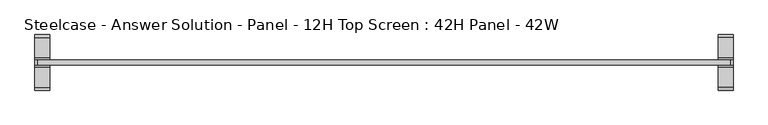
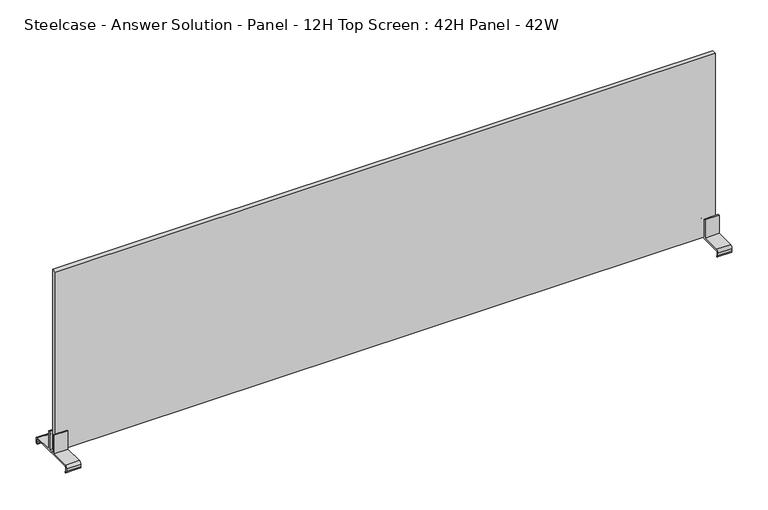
"""IFC4 building model written with IfcOpenShell, lengths in millimetres: furniture geometry, Steelcase - Answer Solution - Panel - 12H Top Screen : 42H Panel - 42W."""

from ifc_helpers import new_model, si_unit, point, frame, frame_2d, origin, place, context, project, spatial, polyline, circle_curve, trimmed, segment, composite_curve, outline, extrude, source, transform, mapped, element, save


def steelcase_answer_solution_panel_12h_top_screen_42h_panel_42w_e1d98cd4(model_context):
    return source(origin(), model_context, "Body", "SweptSolid", [
        extrude(outline(polyline([(529.336, -3.683001), (-529.336, -3.683001), (-529.336, 3.683001), (529.336, 3.683001), (529.336, -3.683001)])), frame((0.0, 0.0, 1075.1819981), z_axis=(0.0, 0.0, 1.0), x_axis=(1.0, 0.0, 0.0)), (0.0, 0.0, 1.0), 304.8),
        extrude(outline(composite_curve([segment(trimmed(circle_curve(frame_2d((38.5445, 1071.245)), 1.905), [point((40.4495, 1071.245))], [point((38.5445, 1073.15))], True, "CARTESIAN"), True, "CONTINUOUS"), segment(polyline([(38.5445, 1073.15), (-38.5445, 1073.15)]), True, "CONTINUOUS"), segment(trimmed(circle_curve(frame_2d((-38.5445, 1071.245)), 1.905), [point((-38.5445, 1073.15))], [point((-40.4495, 1071.245))], True, "CARTESIAN"), True, "CONTINUOUS"), segment(polyline([(-40.4495, 1071.245), (-40.4495, 1066.6341187)]), True, "CONTINUOUS"), segment(trimmed(circle_curve(frame_2d((-38.5445, 1066.6341187)), 1.905), [point((-40.4495, 1066.6341187))], [point((-38.6743328, 1064.7335481))], True, "CARTESIAN"), True, "CONTINUOUS"), segment(polyline([(-38.6743328, 1064.7335481), (-39.2392449, 1063.1535566)]), True, "CONTINUOUS"), segment(trimmed(circle_curve(frame_2d((-38.5459934, 1067.0284569)), 3.9364261), [point((-39.2392449, 1063.1535566))], [point((-42.4824195, 1067.0284569))], False, "CARTESIAN"), True, "CONTINUOUS"), segment(polyline([(-42.4824195, 1067.0284569), (-42.4824195, 1071.2452288)]), True, "CONTINUOUS"), segment(trimmed(circle_curve(frame_2d((-38.5459934, 1071.2452288)), 3.9364261), [point((-42.4824195, 1071.2452288))], [point((-38.5459934, 1075.1816549))], False, "CARTESIAN"), True, "CONTINUOUS"), segment(polyline([(-38.5459934, 1075.1816549), (-6.7310004, 1075.1816549), (-6.7310004, 1106.1699952), (-4.699, 1106.1699952), (-4.699, 1075.1819952), (4.699, 1075.1819952), (4.699, 1106.1700048), (6.7310004, 1106.1700048), (6.7310004, 1075.1816549), (38.5459934, 1075.1816549)]), True, "CONTINUOUS"), segment(trimmed(circle_curve(frame_2d((38.5459934, 1071.2452288)), 3.9364261), [point((38.5459934, 1075.1816549))], [point((42.4824195, 1071.2452288))], False, "CARTESIAN"), True, "CONTINUOUS"), segment(polyline([(42.4824195, 1071.2452288), (42.4824195, 1067.0284569)]), True, "CONTINUOUS"), segment(trimmed(circle_curve(frame_2d((38.5459934, 1067.0284569)), 3.9364261), [point((42.4824195, 1067.0284569))], [point((39.6631716, 1063.2538889))], False, "CARTESIAN"), True, "CONTINUOUS"), segment(polyline([(39.6631716, 1063.2538889), (39.1055128, 1064.8135996)]), True, "CONTINUOUS"), segment(trimmed(circle_curve(frame_2d((38.5445, 1066.6341187)), 1.905), [point((39.1055128, 1064.8135996))], [point((40.4495, 1066.6341187))], True, "CARTESIAN"), True, "CONTINUOUS"), segment(polyline([(40.4495, 1066.6341187), (40.4495, 1071.245)]), True, "CONTINUOUS")], self_intersect=False)), frame((510.794, 0.0, 0.0), z_axis=(1.0, 0.0, 0.0), x_axis=(0.0, 1.0, 0.0)), (0.0, 0.0, 1.0), 22.606),
        extrude(outline(composite_curve([segment(trimmed(circle_curve(frame_2d((38.5445, 1071.245)), 1.905), [point((40.4495, 1071.245))], [point((38.5445, 1073.15))], True, "CARTESIAN"), True, "CONTINUOUS"), segment(polyline([(38.5445, 1073.15), (-38.5445, 1073.15)]), True, "CONTINUOUS"), segment(trimmed(circle_curve(frame_2d((-38.5445, 1071.245)), 1.905), [point((-38.5445, 1073.15))], [point((-40.4495, 1071.245))], True, "CARTESIAN"), True, "CONTINUOUS"), segment(polyline([(-40.4495, 1071.245), (-40.4495, 1066.6341187)]), True, "CONTINUOUS"), segment(trimmed(circle_curve(frame_2d((-38.5445, 1066.6341187)), 1.905), [point((-40.4495, 1066.6341187))], [point((-38.6743328, 1064.7335481))], True, "CARTESIAN"), True, "CONTINUOUS"), segment(polyline([(-38.6743328, 1064.7335481), (-39.2392449, 1063.1535566)]), True, "CONTINUOUS"), segment(trimmed(circle_curve(frame_2d((-38.5459934, 1067.0284569)), 3.9364261), [point((-39.2392449, 1063.1535566))], [point((-42.4824195, 1067.0284569))], False, "CARTESIAN"), True, "CONTINUOUS"), segment(polyline([(-42.4824195, 1067.0284569), (-42.4824195, 1071.2452288)]), True, "CONTINUOUS"), segment(trimmed(circle_curve(frame_2d((-38.5459934, 1071.2452288)), 3.9364261), [point((-42.4824195, 1071.2452288))], [point((-38.5459934, 1075.1816549))], False, "CARTESIAN"), True, "CONTINUOUS"), segment(polyline([(-38.5459934, 1075.1816549), (-6.7310004, 1075.1816549), (-6.7310004, 1106.1699952), (-4.699, 1106.1699952), (-4.699, 1075.1819952), (4.699, 1075.1819952), (4.699, 1106.1700048), (6.7310004, 1106.1700048), (6.7310004, 1075.1816549), (38.5459934, 1075.1816549)]), True, "CONTINUOUS"), segment(trimmed(circle_curve(frame_2d((38.5459934, 1071.2452288)), 3.9364261), [point((38.5459934, 1075.1816549))], [point((42.4824195, 1071.2452288))], False, "CARTESIAN"), True, "CONTINUOUS"), segment(polyline([(42.4824195, 1071.2452288), (42.4824195, 1067.0284569)]), True, "CONTINUOUS"), segment(trimmed(circle_curve(frame_2d((38.5459934, 1067.0284569)), 3.9364261), [point((42.4824195, 1067.0284569))], [point((39.6631716, 1063.2538889))], False, "CARTESIAN"), True, "CONTINUOUS"), segment(polyline([(39.6631716, 1063.2538889), (39.1055128, 1064.8135996)]), True, "CONTINUOUS"), segment(trimmed(circle_curve(frame_2d((38.5445, 1066.6341187)), 1.905), [point((39.1055128, 1064.8135996))], [point((40.4495, 1066.6341187))], True, "CARTESIAN"), True, "CONTINUOUS"), segment(polyline([(40.4495, 1066.6341187), (40.4495, 1071.245)]), True, "CONTINUOUS")], self_intersect=False)), frame((-533.4, 0.0, 0.0), z_axis=(1.0, 0.0, 0.0), x_axis=(0.0, 1.0, 0.0)), (0.0, 0.0, 1.0), 22.606),
    ])


if __name__ == "__main__":
    model = new_model("IFC4")
    model_context = context("Model", 3, world=origin())
    ifc_project = project(units=[si_unit("LENGTHUNIT", "METRE", prefix="MILLI")], contexts=[model_context])
    site = spatial("IfcSite", under=ifc_project)
    building = spatial("IfcBuilding", under=site)
    placement = place(None, origin())
    steelcase_answer_solution_panel_12h_top_screen_42h_panel_42w_shape = steelcase_answer_solution_panel_12h_top_screen_42h_panel_42w_e1d98cd4(model_context)
    element("IfcFurniture", 1, ObjectType="Steelcase - Answer Solution - Panel - 12H Top Screen : 42H Panel - 42W", at=placement, inside=building, context=model_context, shape_type="MappedRepresentation", body=[
        mapped(steelcase_answer_solution_panel_12h_top_screen_42h_panel_42w_shape, transform((0.0, 0.0, 0.0), x_axis=(1.0, 0.0, 0.0), y_axis=(0.0, 1.0, 0.0), z_axis=(0.0, 0.0, 1.0))),
    ])
    save(model, "model.ifc")
